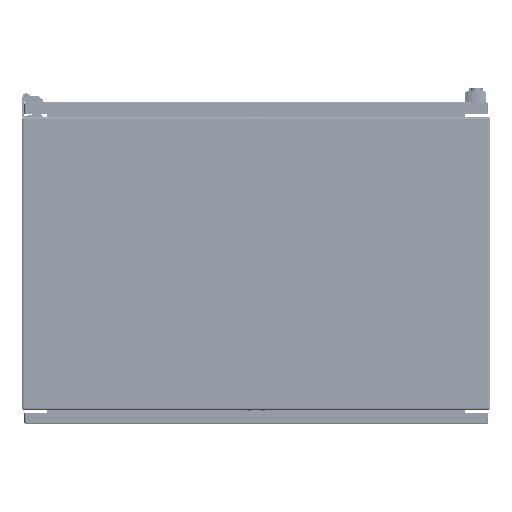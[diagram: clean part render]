
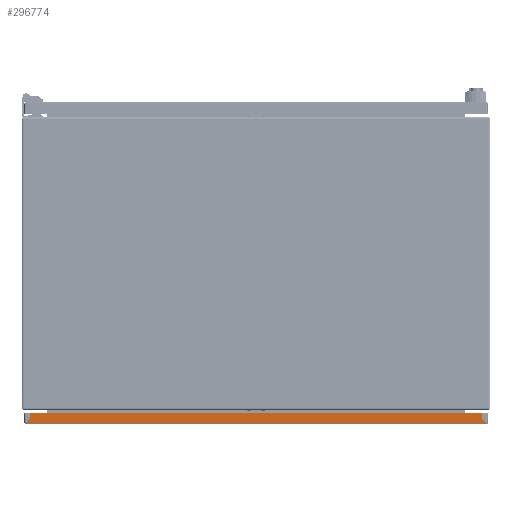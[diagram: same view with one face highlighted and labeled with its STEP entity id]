
A CAD part, front view. The second image highlights one B-rep face of the part: STEP entity #296774.
In plain terms, the highlighted planar face has unit normal (0, -1, 0).
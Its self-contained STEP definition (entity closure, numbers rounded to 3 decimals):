
#170326 = CARTESIAN_POINT ( 'NONE',  ( -386.083, 21.5, -255. ) ) ;
#170328 = CARTESIAN_POINT ( 'NONE',  ( 386.383, 21.5, -255. ) ) ;
#170333 = DIRECTION ( 'NONE',  ( -1., 0., 0. ) ) ;
#170335 = VECTOR ( 'NONE', #170333, 1000. ) ;
#170337 = CARTESIAN_POINT ( 'NONE',  ( 10281.15, 21.5, -255. ) ) ;
#170339 = LINE ( 'NONE', #170337, #170335 ) ;
#170517 = DIRECTION ( 'NONE',  ( 0., 0., -1. ) ) ;
#170518 = VECTOR ( 'NONE', #170517, 1000. ) ;
#170520 = CARTESIAN_POINT ( 'NONE',  ( 386.383, 21.5, -255. ) ) ;
#170522 = LINE ( 'NONE', #170520, #170518 ) ;
#170680 = DIRECTION ( 'NONE',  ( 0., 0., -1. ) ) ;
#170682 = VECTOR ( 'NONE', #170680, 1000. ) ;
#170683 = CARTESIAN_POINT ( 'NONE',  ( -386.083, 21.5, -255. ) ) ;
#170685 = LINE ( 'NONE', #170683, #170682 ) ;
#170710 = CARTESIAN_POINT ( 'NONE',  ( 386.383, 21.5, -264.81 ) ) ;
#170809 = DIRECTION ( 'NONE',  ( -1., 0., 0. ) ) ;
#170810 = VECTOR ( 'NONE', #170809, 1000. ) ;
#170812 = CARTESIAN_POINT ( 'NONE',  ( 10281.15, 21.5, -272.9 ) ) ;
#170813 = LINE ( 'NONE', #170812, #170810 ) ;
#170963 = DIRECTION ( 'NONE',  ( 0.707, 0., -0.707 ) ) ;
#170965 = VECTOR ( 'NONE', #170963, 1000. ) ;
#170968 = CARTESIAN_POINT ( 'NONE',  ( 386.383, 21.5, -264.81 ) ) ;
#170970 = LINE ( 'NONE', #170968, #170965 ) ;
#170986 = CARTESIAN_POINT ( 'NONE',  ( 394.473, 21.5, -272.9 ) ) ;
#171102 = DIRECTION ( 'NONE',  ( 0., 0., -1. ) ) ;
#171104 = DIRECTION ( 'NONE',  ( 0., 1., 0. ) ) ;
#171106 = CARTESIAN_POINT ( 'NONE',  ( 10281.15, 21.5, -255. ) ) ;
#171107 = AXIS2_PLACEMENT_3D ( 'NONE', #171106, #171104, #171102 ) ;
#171116 = PLANE ( 'NONE',  #171107 ) ;
#171177 = FACE_OUTER_BOUND ( 'NONE', #296777, .T. ) ;
#171387 = CARTESIAN_POINT ( 'NONE',  ( -394.173, 21.5, -272.9 ) ) ;
#171391 = DIRECTION ( 'NONE',  ( -0.707, 0., -0.707 ) ) ;
#171392 = VECTOR ( 'NONE', #171391, 1000. ) ;
#171396 = CARTESIAN_POINT ( 'NONE',  ( -386.083, 21.5, -264.81 ) ) ;
#171398 = LINE ( 'NONE', #171396, #171392 ) ;
#171416 = CARTESIAN_POINT ( 'NONE',  ( -386.083, 21.5, -264.81 ) ) ;
#296505 = EDGE_CURVE ( 'NONE', #296511, #296514, #170339, .T. ) ;
#296511 = VERTEX_POINT ( 'NONE', #170328 ) ;
#296514 = VERTEX_POINT ( 'NONE', #170326 ) ;
#296590 = EDGE_CURVE ( 'NONE', #296511, #296593, #170522, .T. ) ;
#296593 = VERTEX_POINT ( 'NONE', #170710 ) ;
#296596 = ORIENTED_EDGE ( 'NONE', *, *, #296505, .T. ) ;
#296603 = ORIENTED_EDGE ( 'NONE', *, *, #296609, .T. ) ;
#296609 = EDGE_CURVE ( 'NONE', #296514, #296870, #170685, .T. ) ;
#296692 = ORIENTED_EDGE ( 'NONE', *, *, #296698, .F. ) ;
#296698 = EDGE_CURVE ( 'NONE', #296702, #296884, #170813, .T. ) ;
#296702 = VERTEX_POINT ( 'NONE', #170986 ) ;
#296708 = ORIENTED_EDGE ( 'NONE', *, *, #296712, .F. ) ;
#296712 = EDGE_CURVE ( 'NONE', #296593, #296702, #170970, .T. ) ;
#296774 = ADVANCED_FACE ( 'NONE', ( #171177 ), #171116, .F. ) ;
#296777 = EDGE_LOOP ( 'NONE', ( #296781, #296596, #296603, #296878, #296692, #296708 ) ) ;
#296781 = ORIENTED_EDGE ( 'NONE', *, *, #296590, .F. ) ;
#296870 = VERTEX_POINT ( 'NONE', #171416 ) ;
#296878 = ORIENTED_EDGE ( 'NONE', *, *, #296882, .T. ) ;
#296882 = EDGE_CURVE ( 'NONE', #296870, #296884, #171398, .T. ) ;
#296884 = VERTEX_POINT ( 'NONE', #171387 ) ;
